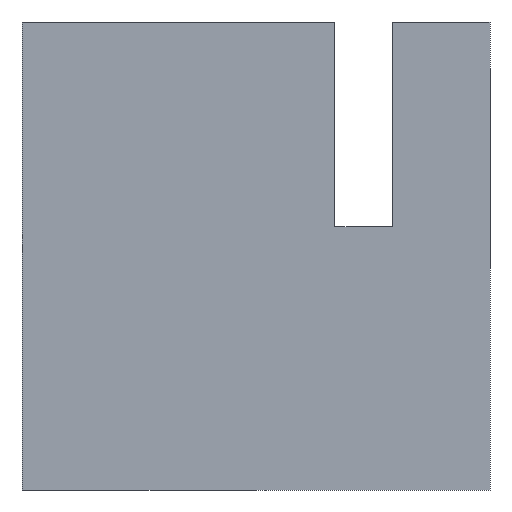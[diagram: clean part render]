
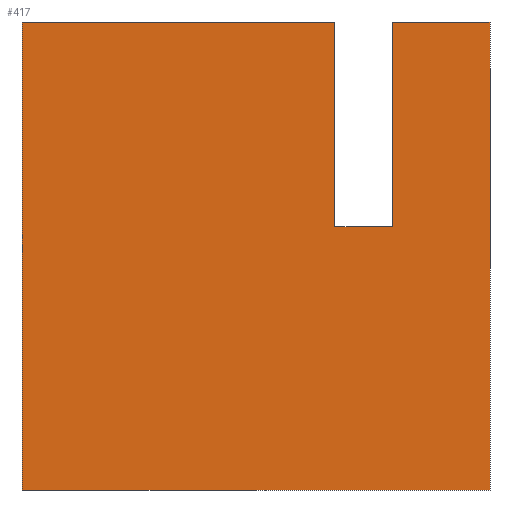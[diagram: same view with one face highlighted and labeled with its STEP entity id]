
A CAD part, left-side view. The second image highlights one B-rep face of the part: STEP entity #417.
In plain terms, the highlighted planar face has unit normal (-1, 0, 0).
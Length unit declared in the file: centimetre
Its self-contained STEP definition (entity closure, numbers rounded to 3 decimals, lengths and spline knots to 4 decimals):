
#12 = CARTESIAN_POINT ( 'NONE',  ( 0., 0., 1000. ) ) ;
#15 = EDGE_CURVE ( 'NONE', #617, #374, #768, .T. ) ;
#35 = CARTESIAN_POINT ( 'NONE',  ( 0., 1000., 1000. ) ) ;
#36 = VECTOR ( 'NONE', #247, 100. ) ;
#38 = CARTESIAN_POINT ( 'NONE',  ( 0., 1000., 1000. ) ) ;
#58 = DIRECTION ( 'NONE',  ( 0., 0., -1. ) ) ;
#73 = CARTESIAN_POINT ( 'NONE',  ( 0., 208.2277, 562.0202 ) ) ;
#89 = DIRECTION ( 'NONE',  ( 0., 0., 1. ) ) ;
#106 = DIRECTION ( 'NONE',  ( 0., 0., -1. ) ) ;
#111 = EDGE_CURVE ( 'NONE', #421, #174, #509, .T. ) ;
#112 = LINE ( 'NONE', #35, #144 ) ;
#118 = EDGE_LOOP ( 'NONE', ( #503, #704, #326, #595, #199, #195, #394, #383 ) ) ;
#144 = VECTOR ( 'NONE', #725, 100. ) ;
#145 = VECTOR ( 'NONE', #476, 100. ) ;
#174 = VERTEX_POINT ( 'NONE', #415 ) ;
#179 = LINE ( 'NONE', #313, #785 ) ;
#186 = VERTEX_POINT ( 'NONE', #222 ) ;
#195 = ORIENTED_EDGE ( 'NONE', *, *, #111, .F. ) ;
#199 = ORIENTED_EDGE ( 'NONE', *, *, #255, .T. ) ;
#222 = CARTESIAN_POINT ( 'NONE',  ( 0., 208.2277, 562.0202 ) ) ;
#226 = FACE_OUTER_BOUND ( 'NONE', #118, .T. ) ;
#247 = DIRECTION ( 'NONE',  ( 0., -1., 0. ) ) ;
#255 = EDGE_CURVE ( 'NONE', #635, #174, #179, .T. ) ;
#257 = VERTEX_POINT ( 'NONE', #676 ) ;
#280 = LINE ( 'NONE', #787, #145 ) ;
#313 = CARTESIAN_POINT ( 'NONE',  ( 0., 1000., 0. ) ) ;
#321 = CARTESIAN_POINT ( 'NONE',  ( 0., 331.4664, 1000. ) ) ;
#324 = VERTEX_POINT ( 'NONE', #38 ) ;
#326 = ORIENTED_EDGE ( 'NONE', *, *, #367, .F. ) ;
#328 = VECTOR ( 'NONE', #89, 100. ) ;
#329 = VECTOR ( 'NONE', #746, 100. ) ;
#350 = CARTESIAN_POINT ( 'NONE',  ( 0., 0., 1000. ) ) ;
#354 = DIRECTION ( 'NONE',  ( 1., 0., 0. ) ) ;
#367 = EDGE_CURVE ( 'NONE', #324, #617, #112, .T. ) ;
#374 = VERTEX_POINT ( 'NONE', #777 ) ;
#383 = ORIENTED_EDGE ( 'NONE', *, *, #752, .F. ) ;
#389 = VECTOR ( 'NONE', #58, 100. ) ;
#394 = ORIENTED_EDGE ( 'NONE', *, *, #708, .F. ) ;
#397 = CARTESIAN_POINT ( 'NONE',  ( 0., 331.4664, 562.0202 ) ) ;
#398 = VECTOR ( 'NONE', #400, 100. ) ;
#400 = DIRECTION ( 'NONE',  ( 0., 0., -1. ) ) ;
#415 = CARTESIAN_POINT ( 'NONE',  ( 0., 0., 0. ) ) ;
#417 = ADVANCED_FACE ( 'NONE', ( #226 ), #474, .F. ) ;
#421 = VERTEX_POINT ( 'NONE', #350 ) ;
#458 = EDGE_CURVE ( 'NONE', #324, #635, #504, .T. ) ;
#465 = LINE ( 'NONE', #647, #328 ) ;
#474 = PLANE ( 'NONE',  #578 ) ;
#475 = EDGE_CURVE ( 'NONE', #374, #186, #568, .T. ) ;
#476 = DIRECTION ( 'NONE',  ( 0., -1., 0. ) ) ;
#503 = ORIENTED_EDGE ( 'NONE', *, *, #475, .F. ) ;
#504 = LINE ( 'NONE', #744, #389 ) ;
#509 = LINE ( 'NONE', #12, #329 ) ;
#561 = DIRECTION ( 'NONE',  ( 0., -1., 0. ) ) ;
#568 = LINE ( 'NONE', #73, #36 ) ;
#578 = AXIS2_PLACEMENT_3D ( 'NONE', #717, #354, #106 ) ;
#595 = ORIENTED_EDGE ( 'NONE', *, *, #458, .T. ) ;
#597 = CARTESIAN_POINT ( 'NONE',  ( 0., 1000., 0. ) ) ;
#617 = VERTEX_POINT ( 'NONE', #321 ) ;
#635 = VERTEX_POINT ( 'NONE', #597 ) ;
#647 = CARTESIAN_POINT ( 'NONE',  ( 0., 208.2277, 562.0202 ) ) ;
#676 = CARTESIAN_POINT ( 'NONE',  ( 0., 208.2277, 1000. ) ) ;
#704 = ORIENTED_EDGE ( 'NONE', *, *, #15, .F. ) ;
#708 = EDGE_CURVE ( 'NONE', #257, #421, #280, .T. ) ;
#717 = CARTESIAN_POINT ( 'NONE',  ( 0., 1000., 1000. ) ) ;
#725 = DIRECTION ( 'NONE',  ( 0., -1., 0. ) ) ;
#744 = CARTESIAN_POINT ( 'NONE',  ( 0., 1000., 1000. ) ) ;
#746 = DIRECTION ( 'NONE',  ( 0., 0., -1. ) ) ;
#752 = EDGE_CURVE ( 'NONE', #186, #257, #465, .T. ) ;
#768 = LINE ( 'NONE', #397, #398 ) ;
#777 = CARTESIAN_POINT ( 'NONE',  ( 0., 331.4664, 562.0202 ) ) ;
#785 = VECTOR ( 'NONE', #561, 100. ) ;
#787 = CARTESIAN_POINT ( 'NONE',  ( 0., 1000., 1000. ) ) ;
